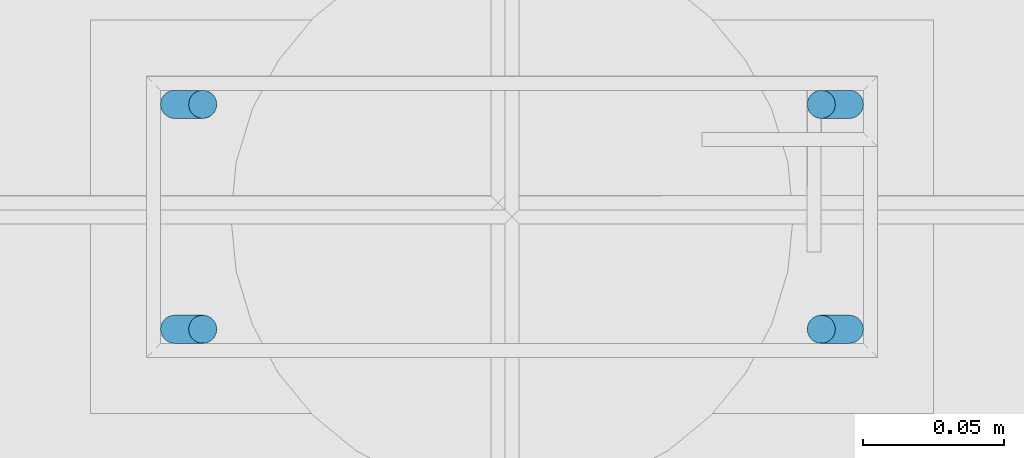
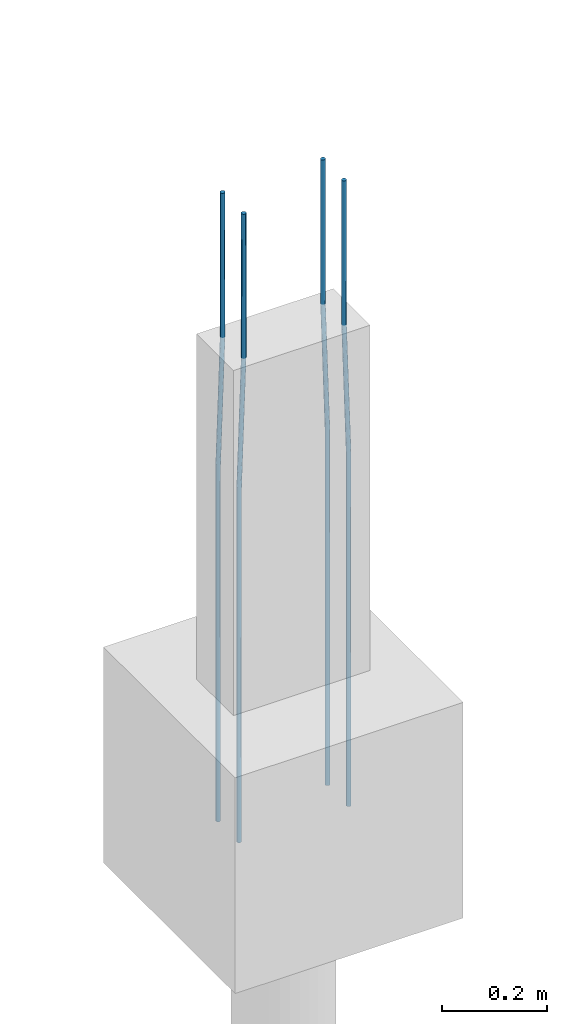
# One storey, part 34 of 119: 4 reinforcing bars.
"""IFC4 building model written with IfcOpenShell, lengths in centimetres."""

from ifc_helpers import new_model, entity, si_unit, derived_unit, frame, origin_with_axes, place, context, project, spatial, element, save


model = new_model("IFC4")

# Units and contexts
model_context = context("Model", 3, precision=1e-05, world=origin_with_axes(), identifier="Body")
ifc_project = project(units=[si_unit("LENGTHUNIT", "METRE", prefix="CENTI"), si_unit("VOLUMEUNIT", "CUBIC_METRE"), si_unit("AREAUNIT", "SQUARE_METRE"), si_unit("POWERUNIT", "WATT"), si_unit("LUMINOUSFLUXUNIT", "LUMEN"), si_unit("ELECTRICCURRENTUNIT", "AMPERE"), si_unit("PRESSUREUNIT", "PASCAL", prefix="KILO"), si_unit("MASSUNIT", "GRAM", prefix="KILO"), si_unit("PLANEANGLEUNIT", "RADIAN"), derived_unit("VOLUMETRICFLOWRATEUNIT", [(si_unit("LENGTHUNIT", "METRE"), 3), (si_unit("TIMEUNIT", "SECOND"), -1)])], contexts=[model_context])

# Site, building, storey
site_placement = place(None, frame((-4000.0, 0.0, 0.0), z_axis=(0.0, 0.0, 1.0), x_axis=(1.0, 0.0, 0.0)))
site = spatial("IfcSite", under=ifc_project, at=site_placement, Name="PADRÃO")
building_placement = place(site_placement, frame((0.0, 0.0, -14.0)))
building = spatial("IfcBuilding", under=site, at=building_placement, Name="CRECHE PRÉ-ESCOLA TIPO 2")
storey_placement = place(building_placement, origin_with_axes())
storey = spatial("IfcBuildingStorey", under=building, at=storey_placement, Name="FUNDAÇÃO", CompositionType="ELEMENT", Elevation=-14.0)

# Reinforcing bars
for number, where, z_axis, x_axis, name in (
    (1, (3119.0, 2908.52, 33.3573001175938), (0.0, 0.0, 1.0), (1.0, 0.0, 0.0), "P62 - Longitudinal"),
    (2, (3119.0, 2916.52, 33.3573001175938), (0.0, 0.0, 1.0), (1.0, 0.0, 0.0), "P62 - Longitudinal"),
):
    element("IfcReinforcingBar", number, at=place(storey_placement, frame(where, z_axis=z_axis, x_axis=x_axis)), inside=storey, Name=name, BarLength=0.0, CrossSectionArea=7.853981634e-05, NominalDiameter=1.0, PredefinedType="MAIN", context=model_context, shape_type="AdvancedSweptSolid", body=[
        entity("IfcSweptDiskSolid", entity("IfcCompositeCurve", [entity("IfcCompositeCurveSegment", "CONTINUOUS", True, entity("IfcPolyline", [entity("IfcCartesianPoint", [-0.5, 0.0, -145.357300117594]), entity("IfcCartesianPoint", [-0.5, 0.0, -63.3573001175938])])), entity("IfcCompositeCurveSegment", "CONTINUOUS", True, entity("IfcPolyline", [entity("IfcCartesianPoint", [-0.5, 0.0, -63.3573001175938]), entity("IfcCartesianPoint", [0.5, 0.0, -33.3573001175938])])), entity("IfcCompositeCurveSegment", "CONTINUOUS", True, entity("IfcPolyline", [entity("IfcCartesianPoint", [0.5, 0.0, -33.3573001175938]), entity("IfcCartesianPoint", [0.5, 0.0, 0.0])]))], False), 0.5),
    ])
for number, where, z_axis, x_axis, name in (
    (3, (3142.0, 2916.52, 33.3573001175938), (0.0, 0.0, 1.0), (1.0, 0.0, 0.0), "P62 - Longitudinal"),
    (4, (3142.0, 2908.52, 33.3573001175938), (0.0, 0.0, 1.0), (1.0, 0.0, 0.0), "P62 - Longitudinal"),
):
    element("IfcReinforcingBar", number, at=place(storey_placement, frame(where, z_axis=z_axis, x_axis=x_axis)), inside=storey, Name=name, BarLength=0.0, CrossSectionArea=7.853981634e-05, NominalDiameter=1.0, PredefinedType="MAIN", context=model_context, shape_type="AdvancedSweptSolid", body=[
        entity("IfcSweptDiskSolid", entity("IfcCompositeCurve", [entity("IfcCompositeCurveSegment", "CONTINUOUS", True, entity("IfcPolyline", [entity("IfcCartesianPoint", [0.5, 0.0, -145.357300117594]), entity("IfcCartesianPoint", [0.5, 0.0, -63.3573001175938])])), entity("IfcCompositeCurveSegment", "CONTINUOUS", True, entity("IfcPolyline", [entity("IfcCartesianPoint", [0.5, 0.0, -63.3573001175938]), entity("IfcCartesianPoint", [-0.5, 0.0, -33.3573001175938])])), entity("IfcCompositeCurveSegment", "CONTINUOUS", True, entity("IfcPolyline", [entity("IfcCartesianPoint", [-0.5, 0.0, -33.3573001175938]), entity("IfcCartesianPoint", [-0.5, 0.0, 0.0])]))], False), 0.5),
    ])

save(model, "model.ifc")
